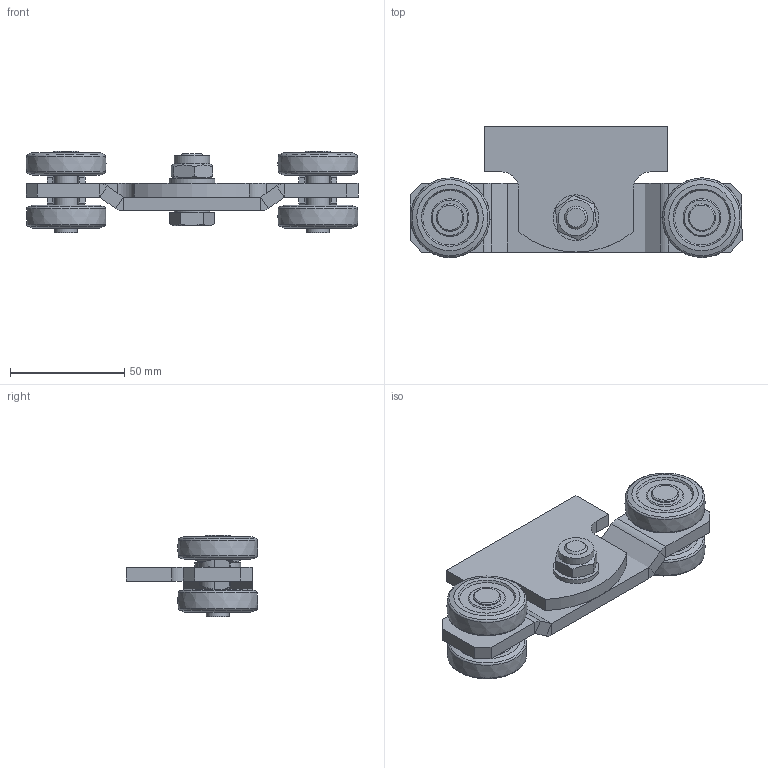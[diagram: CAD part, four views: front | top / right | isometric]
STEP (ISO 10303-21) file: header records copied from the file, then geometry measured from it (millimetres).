
FILE_DESCRIPTION(/* description */ ('Brennteil'),/* implementation_level */ '2;1');
FILE_NAME(/* name */ 'Q:\sge-ma\Produktmanagement-STB\STB\Workspace\TraceParts\Doppelrolle mit Anschweißpendel\010336864.stp',/* time_stamp */ '2018-02-27T13:35:08+01:00',/* author */ ('avschreier'),/* organization */ (''),/* preprocessor_version */ 'ST-DEVELOPER v16.1',/* originating_system */ 'Autodesk Inventor 2016',/* authorisation */ '');
FILE_SCHEMA (('CONFIG_CONTROL_DESIGN'));
Length unit declared in the file: millimetre
Products named in the file (9): 000302061; 337000121; 000303236; 336290020; 000304013; DIN_EN_ISO_7090-10,5_en; DIN_EN_ISO_4017-M10x25_en; DIN_EN_ISO_7040-M10_en; 010336864
Assembly tree (15 placements, depth 2):
  010336864
    000302061
    337000121
    000303236  x4
    336290020  x4
    000304013  x2
    DIN_EN_ISO_7090-10,5_en
    DIN_EN_ISO_4017-M10x25_en
    DIN_EN_ISO_7040-M10_en
Bounding box: 145 x 57.5 x 35.5 mm (x, y, z)
Volume: 86838.4 mm3; surface area: 38622.5 mm2
Topology: 15 solids, 15 shells, 341 faces, 785 edges, 494 vertices
Faces by surface type: plane 201, cylinder 48, cone 46, bspline 36, torus 10
Full cylindrical faces by diameter (mm): 8.376 x1, 9.188 x1, 10 x7, 10.1 x1, 10.3 x1, 10.5 x1, 12 x2, 15.4 x1, 15.6 x1, 20 x1
Entity records: 5730 total; most frequent: CARTESIAN_POINT 1957, DIRECTION 766, ORIENTED_EDGE 682, EDGE_CURVE 341, AXIS2_PLACEMENT_3D 285, VERTEX_POINT 228, EDGE_LOOP 217, LINE 196
